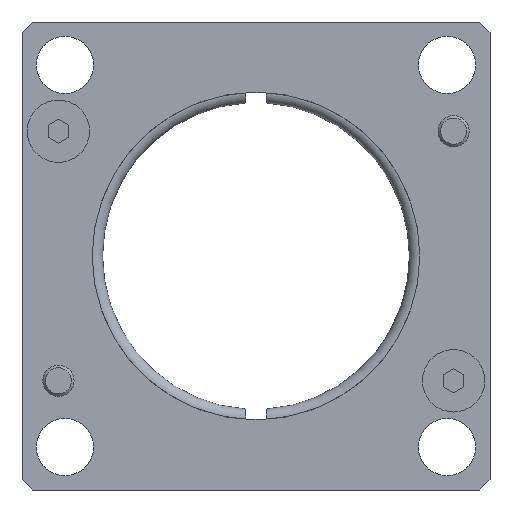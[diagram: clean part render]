
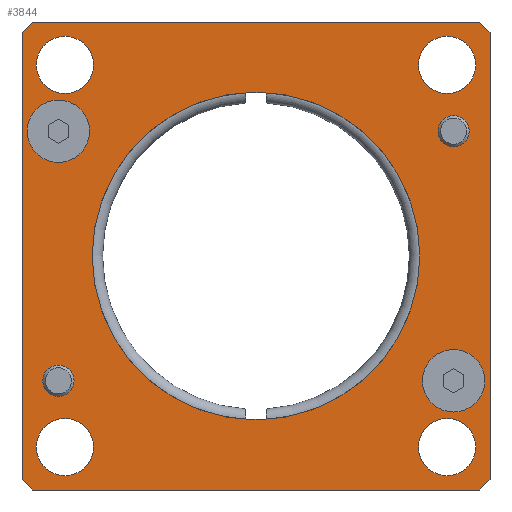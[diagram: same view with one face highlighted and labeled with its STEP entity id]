
A CAD part, front view. The second image highlights one B-rep face of the part: STEP entity #3844.
In plain terms, the highlighted planar face has unit normal (0, -1, 0) as drawn and (0, 0, -1) by its records, which use the part's own axes.
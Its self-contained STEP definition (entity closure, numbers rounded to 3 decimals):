
#151=FACE_BOUND('',#464,.T.);
#152=FACE_BOUND('',#465,.T.);
#153=FACE_BOUND('',#466,.T.);
#154=FACE_BOUND('',#467,.T.);
#155=FACE_BOUND('',#468,.T.);
#156=FACE_BOUND('',#469,.T.);
#157=FACE_BOUND('',#470,.T.);
#158=FACE_BOUND('',#471,.T.);
#159=FACE_BOUND('',#472,.T.);
#186=CIRCLE('',#4135,31.5);
#194=CIRCLE('',#4145,6.);
#196=CIRCLE('',#4148,6.);
#197=CIRCLE('',#4149,3.);
#198=CIRCLE('',#4150,3.);
#199=CIRCLE('',#4151,5.5);
#200=CIRCLE('',#4152,5.5);
#201=CIRCLE('',#4153,5.5);
#202=CIRCLE('',#4154,5.5);
#244=FACE_OUTER_BOUND('',#463,.T.);
#463=EDGE_LOOP('',(#2593,#2594,#2595,#2596,#2597,#2598,#2599,#2600));
#464=EDGE_LOOP('',(#2601));
#465=EDGE_LOOP('',(#2602));
#466=EDGE_LOOP('',(#2603));
#467=EDGE_LOOP('',(#2604));
#468=EDGE_LOOP('',(#2605));
#469=EDGE_LOOP('',(#2606));
#470=EDGE_LOOP('',(#2607));
#471=EDGE_LOOP('',(#2608));
#472=EDGE_LOOP('',(#2609));
#716=LINE('',#5062,#1049);
#717=LINE('',#5064,#1050);
#718=LINE('',#5066,#1051);
#719=LINE('',#5068,#1052);
#720=LINE('',#5070,#1053);
#721=LINE('',#5072,#1054);
#722=LINE('',#5074,#1055);
#723=LINE('',#5075,#1056);
#1049=VECTOR('',#4337,10.);
#1050=VECTOR('',#4338,10.);
#1051=VECTOR('',#4339,10.);
#1052=VECTOR('',#4340,10.);
#1053=VECTOR('',#4341,10.);
#1054=VECTOR('',#4342,10.);
#1055=VECTOR('',#4343,10.);
#1056=VECTOR('',#4344,10.);
#1595=VERTEX_POINT('',#5038);
#1599=VERTEX_POINT('',#5054);
#1601=VERTEX_POINT('',#5060);
#1602=VERTEX_POINT('',#5061);
#1603=VERTEX_POINT('',#5063);
#1604=VERTEX_POINT('',#5065);
#1605=VERTEX_POINT('',#5067);
#1606=VERTEX_POINT('',#5069);
#1607=VERTEX_POINT('',#5071);
#1608=VERTEX_POINT('',#5073);
#1609=VERTEX_POINT('',#5076);
#1610=VERTEX_POINT('',#5078);
#1611=VERTEX_POINT('',#5080);
#1612=VERTEX_POINT('',#5082);
#1613=VERTEX_POINT('',#5084);
#1614=VERTEX_POINT('',#5086);
#1615=VERTEX_POINT('',#5088);
#1984=EDGE_CURVE('',#1595,#1595,#186,.T.);
#1994=EDGE_CURVE('',#1599,#1599,#194,.T.);
#1997=EDGE_CURVE('',#1601,#1602,#716,.T.);
#1998=EDGE_CURVE('',#1601,#1603,#717,.T.);
#1999=EDGE_CURVE('',#1604,#1603,#718,.T.);
#2000=EDGE_CURVE('',#1604,#1605,#719,.T.);
#2001=EDGE_CURVE('',#1606,#1605,#720,.T.);
#2002=EDGE_CURVE('',#1606,#1607,#721,.T.);
#2003=EDGE_CURVE('',#1608,#1607,#722,.T.);
#2004=EDGE_CURVE('',#1608,#1602,#723,.T.);
#2005=EDGE_CURVE('',#1609,#1609,#196,.T.);
#2006=EDGE_CURVE('',#1610,#1610,#197,.T.);
#2007=EDGE_CURVE('',#1611,#1611,#198,.T.);
#2008=EDGE_CURVE('',#1612,#1612,#199,.T.);
#2009=EDGE_CURVE('',#1613,#1613,#200,.T.);
#2010=EDGE_CURVE('',#1614,#1614,#201,.T.);
#2011=EDGE_CURVE('',#1615,#1615,#202,.T.);
#2593=ORIENTED_EDGE('',*,*,#1997,.F.);
#2594=ORIENTED_EDGE('',*,*,#1998,.T.);
#2595=ORIENTED_EDGE('',*,*,#1999,.F.);
#2596=ORIENTED_EDGE('',*,*,#2000,.T.);
#2597=ORIENTED_EDGE('',*,*,#2001,.F.);
#2598=ORIENTED_EDGE('',*,*,#2002,.T.);
#2599=ORIENTED_EDGE('',*,*,#2003,.F.);
#2600=ORIENTED_EDGE('',*,*,#2004,.T.);
#2601=ORIENTED_EDGE('',*,*,#2005,.F.);
#2602=ORIENTED_EDGE('',*,*,#2006,.T.);
#2603=ORIENTED_EDGE('',*,*,#2007,.T.);
#2604=ORIENTED_EDGE('',*,*,#1984,.T.);
#2605=ORIENTED_EDGE('',*,*,#2008,.T.);
#2606=ORIENTED_EDGE('',*,*,#2009,.T.);
#2607=ORIENTED_EDGE('',*,*,#2010,.T.);
#2608=ORIENTED_EDGE('',*,*,#2011,.T.);
#2609=ORIENTED_EDGE('',*,*,#1994,.F.);
#3735=PLANE('',#4147);
#3844=ADVANCED_FACE('',(#244,#151,#152,#153,#154,#155,#156,#157,#158,#159),
#3735,.F.);
#4135=AXIS2_PLACEMENT_3D('',#5039,#4308,#4309);
#4145=AXIS2_PLACEMENT_3D('',#5055,#4330,#4331);
#4147=AXIS2_PLACEMENT_3D('',#5059,#4335,#4336);
#4148=AXIS2_PLACEMENT_3D('',#5077,#4345,#4346);
#4149=AXIS2_PLACEMENT_3D('',#5079,#4347,#4348);
#4150=AXIS2_PLACEMENT_3D('',#5081,#4349,#4350);
#4151=AXIS2_PLACEMENT_3D('',#5083,#4351,#4352);
#4152=AXIS2_PLACEMENT_3D('',#5085,#4353,#4354);
#4153=AXIS2_PLACEMENT_3D('',#5087,#4355,#4356);
#4154=AXIS2_PLACEMENT_3D('',#5089,#4357,#4358);
#4308=DIRECTION('center_axis',(0.,0.,1.));
#4309=DIRECTION('ref_axis',(-1.,0.,0.));
#4330=DIRECTION('center_axis',(0.,0.,-1.));
#4331=DIRECTION('ref_axis',(1.,0.,0.));
#4335=DIRECTION('center_axis',(0.,0.,1.));
#4336=DIRECTION('ref_axis',(1.,0.,0.));
#4337=DIRECTION('',(0.707,0.707,0.));
#4338=DIRECTION('',(-1.,0.,0.));
#4339=DIRECTION('',(0.707,-0.707,0.));
#4340=DIRECTION('',(0.,1.,0.));
#4341=DIRECTION('',(-0.707,-0.707,0.));
#4342=DIRECTION('',(1.,0.,0.));
#4343=DIRECTION('',(-0.707,0.707,0.));
#4344=DIRECTION('',(0.,-1.,0.));
#4345=DIRECTION('center_axis',(0.,0.,-1.));
#4346=DIRECTION('ref_axis',(1.,0.,0.));
#4347=DIRECTION('center_axis',(0.,0.,1.));
#4348=DIRECTION('ref_axis',(1.,0.,0.));
#4349=DIRECTION('center_axis',(0.,0.,1.));
#4350=DIRECTION('ref_axis',(1.,0.,0.));
#4351=DIRECTION('center_axis',(0.,0.,1.));
#4352=DIRECTION('ref_axis',(-1.,0.,0.));
#4353=DIRECTION('center_axis',(0.,0.,1.));
#4354=DIRECTION('ref_axis',(-1.,0.,0.));
#4355=DIRECTION('center_axis',(0.,0.,1.));
#4356=DIRECTION('ref_axis',(-1.,0.,0.));
#4357=DIRECTION('center_axis',(0.,0.,1.));
#4358=DIRECTION('ref_axis',(-1.,0.,0.));
#5038=CARTESIAN_POINT('',(31.5,0.,0.));
#5039=CARTESIAN_POINT('Origin',(0.,0.,0.));
#5054=CARTESIAN_POINT('',(32.,24.,0.));
#5055=CARTESIAN_POINT('Origin',(38.,24.,0.));
#5059=CARTESIAN_POINT('Origin',(0.,0.,
0.));
#5060=CARTESIAN_POINT('',(43.,-45.,0.));
#5061=CARTESIAN_POINT('',(45.,-43.,0.));
#5062=CARTESIAN_POINT('',(44.,-44.,0.));
#5063=CARTESIAN_POINT('',(-43.,-45.,0.));
#5064=CARTESIAN_POINT('',(45.,-45.,0.));
#5065=CARTESIAN_POINT('',(-45.,-43.,0.));
#5066=CARTESIAN_POINT('',(-44.,-44.,0.));
#5067=CARTESIAN_POINT('',(-45.,43.,0.));
#5068=CARTESIAN_POINT('',(-45.,-45.,0.));
#5069=CARTESIAN_POINT('',(-43.,45.,0.));
#5070=CARTESIAN_POINT('',(-44.,44.,0.));
#5071=CARTESIAN_POINT('',(43.,45.,0.));
#5072=CARTESIAN_POINT('',(-45.,45.,0.));
#5073=CARTESIAN_POINT('',(45.,43.,0.));
#5074=CARTESIAN_POINT('',(44.,44.,0.));
#5075=CARTESIAN_POINT('',(45.,45.,0.));
#5076=CARTESIAN_POINT('',(-44.,-24.,0.));
#5077=CARTESIAN_POINT('Origin',(-38.,-24.,0.));
#5078=CARTESIAN_POINT('',(35.,-24.,0.));
#5079=CARTESIAN_POINT('Origin',(38.,-24.,0.));
#5080=CARTESIAN_POINT('',(-41.,24.,0.));
#5081=CARTESIAN_POINT('Origin',(-38.,24.,0.));
#5082=CARTESIAN_POINT('',(42.25,-36.75,0.));
#5083=CARTESIAN_POINT('Origin',(36.75,-36.75,0.));
#5084=CARTESIAN_POINT('',(-31.25,-36.75,0.));
#5085=CARTESIAN_POINT('Origin',(-36.75,-36.75,0.));
#5086=CARTESIAN_POINT('',(42.25,36.75,0.));
#5087=CARTESIAN_POINT('Origin',(36.75,36.75,0.));
#5088=CARTESIAN_POINT('',(-31.25,36.75,0.));
#5089=CARTESIAN_POINT('Origin',(-36.75,36.75,0.));
